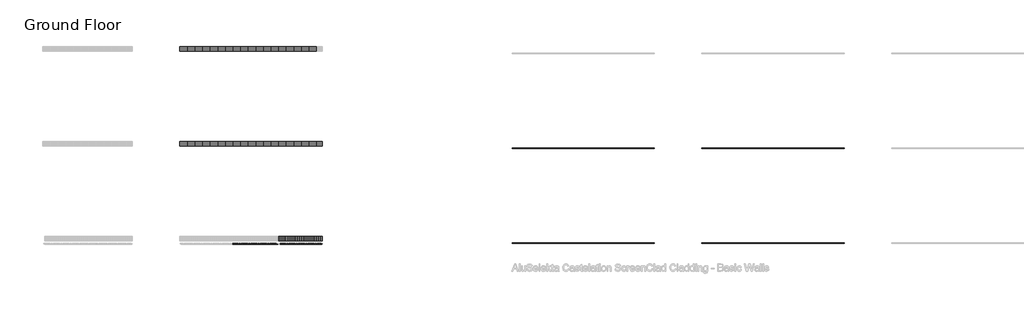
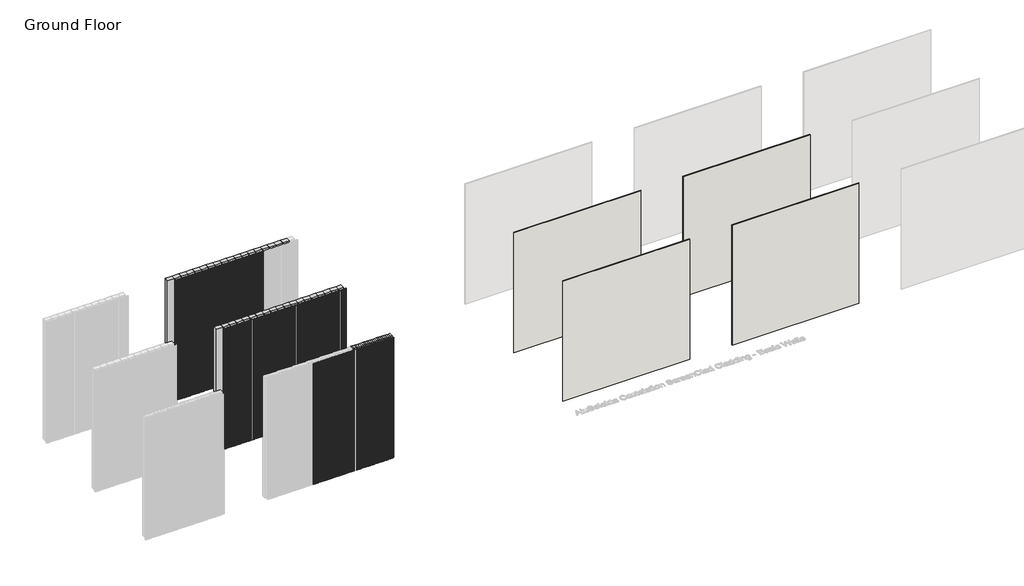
# One storey, part 35 of 350: 77 members, 60 plates, 4 walls.
"""IFC4 building model written with IfcOpenShell, lengths in millimetres."""

from ifc_helpers import new_model, si_unit, origin, origin_with_axes, place, context, project, spatial, polyline, outline, extrude, transform, mapped, element, save
from components import rectangular_mullion_4c3290df, rectangular_mullion_73ab8564, empty_system_panel_empty_086c6263, empty_system_panel_empty_a0fcacb3, empty_system_panel_empty_3b645525, empty_system_panel_empty_df7ddcff

model = new_model("IFC4")

# Units and contexts
model_context = context("Model", 3, world=origin())
ifc_project = project(units=[si_unit("LENGTHUNIT", "METRE", prefix="MILLI")], contexts=[model_context])

# Site, building, storey
site = spatial("IfcSite", under=ifc_project)
building = spatial("IfcBuilding", under=site)
storey = spatial("IfcBuildingStorey", under=building, Name="Ground Floor", Elevation=0.0)

# Members
placement = place(None, origin())
rectangular_mullion_shape = rectangular_mullion_4c3290df(model_context)
element("IfcMember", 1, ObjectType="Rectangular Mullion : Cladding_Aluminium_Modinex_AluSelekta_Castelation_ScreenClad_40_WhiteOak", at=placement, inside=storey, context=model_context, shape_type="MappedRepresentation", body=[
    mapped(rectangular_mullion_shape, transform((51156.4361642, 4968.2978302, 0.0), x_axis=(1.0, 0.0, 0.0), y_axis=(0.0, -1.0, 0.0), z_axis=(0.0, 0.0, -1.0))),
])
element("IfcMember", 2, ObjectType="Rectangular Mullion : Cladding_Aluminium_Modinex_AluSelekta_Castelation_ScreenClad_40_WhiteOak", at=placement, inside=storey, context=model_context, shape_type="MappedRepresentation", body=[
    mapped(rectangular_mullion_shape, transform((51196.4361642, 4968.2978302, 0.0), x_axis=(1.0, 0.0, 0.0), y_axis=(0.0, -1.0, 0.0), z_axis=(0.0, 0.0, -1.0))),
])
element("IfcMember", 3, ObjectType="Rectangular Mullion : Cladding_Aluminium_Modinex_AluSelekta_Castelation_ScreenClad_40_WhiteOak", at=placement, inside=storey, context=model_context, shape_type="MappedRepresentation", body=[
    mapped(rectangular_mullion_shape, transform((51236.4361642, 4968.2978302, 0.0), x_axis=(1.0, 0.0, 0.0), y_axis=(0.0, -1.0, 0.0), z_axis=(0.0, 0.0, -1.0))),
])
element("IfcMember", 4, ObjectType="Rectangular Mullion : Cladding_Aluminium_Modinex_AluSelekta_Castelation_ScreenClad_40_WhiteOak", at=placement, inside=storey, context=model_context, shape_type="MappedRepresentation", body=[
    mapped(rectangular_mullion_shape, transform((51276.4361642, 4968.2978302, 0.0), x_axis=(1.0, 0.0, 0.0), y_axis=(0.0, -1.0, 0.0), z_axis=(0.0, 0.0, -1.0))),
])
element("IfcMember", 5, ObjectType="Rectangular Mullion : Cladding_Aluminium_Modinex_AluSelekta_Castelation_ScreenClad_40_WhiteOak", at=placement, inside=storey, context=model_context, shape_type="MappedRepresentation", body=[
    mapped(rectangular_mullion_shape, transform((51316.4361642, 4968.2978302, 0.0), x_axis=(1.0, 0.0, 0.0), y_axis=(0.0, -1.0, 0.0), z_axis=(0.0, 0.0, -1.0))),
])
element("IfcMember", 6, ObjectType="Rectangular Mullion : Cladding_Aluminium_Modinex_AluSelekta_Castelation_ScreenClad_40_WhiteOak", at=placement, inside=storey, context=model_context, shape_type="MappedRepresentation", body=[
    mapped(rectangular_mullion_shape, transform((51356.4361642, 4968.2978302, 0.0), x_axis=(1.0, 0.0, 0.0), y_axis=(0.0, -1.0, 0.0), z_axis=(0.0, 0.0, -1.0))),
])
element("IfcMember", 7, ObjectType="Rectangular Mullion : Cladding_Aluminium_Modinex_AluSelekta_Castelation_ScreenClad_40_WhiteOak", at=placement, inside=storey, context=model_context, shape_type="MappedRepresentation", body=[
    mapped(rectangular_mullion_shape, transform((51396.4361642, 4968.2978302, 0.0), x_axis=(1.0, 0.0, 0.0), y_axis=(0.0, -1.0, 0.0), z_axis=(0.0, 0.0, -1.0))),
])
element("IfcMember", 8, ObjectType="Rectangular Mullion : Cladding_Aluminium_Modinex_AluSelekta_Castelation_ScreenClad_40_WhiteOak", at=placement, inside=storey, context=model_context, shape_type="MappedRepresentation", body=[
    mapped(rectangular_mullion_shape, transform((51436.4361642, 4968.2978302, 0.0), x_axis=(1.0, 0.0, 0.0), y_axis=(0.0, -1.0, 0.0), z_axis=(0.0, 0.0, -1.0))),
])
element("IfcMember", 9, ObjectType="Rectangular Mullion : Cladding_Aluminium_Modinex_AluSelekta_Castelation_ScreenClad_40_WhiteOak", at=placement, inside=storey, context=model_context, shape_type="MappedRepresentation", body=[
    mapped(rectangular_mullion_shape, transform((51476.4361642, 4968.2978302, 0.0), x_axis=(1.0, 0.0, 0.0), y_axis=(0.0, -1.0, 0.0), z_axis=(0.0, 0.0, -1.0))),
])
element("IfcMember", 10, ObjectType="Rectangular Mullion : Cladding_Aluminium_Modinex_AluSelekta_Castelation_ScreenClad_40_WhiteOak", at=placement, inside=storey, context=model_context, shape_type="MappedRepresentation", body=[
    mapped(rectangular_mullion_shape, transform((51516.4361642, 4968.2978302, 0.0), x_axis=(1.0, 0.0, 0.0), y_axis=(0.0, -1.0, 0.0), z_axis=(0.0, 0.0, -1.0))),
])
element("IfcMember", 11, ObjectType="Rectangular Mullion : Cladding_Aluminium_Modinex_AluSelekta_Castelation_ScreenClad_40_WhiteOak", at=placement, inside=storey, context=model_context, shape_type="MappedRepresentation", body=[
    mapped(rectangular_mullion_shape, transform((51556.4361642, 4968.2978302, 0.0), x_axis=(1.0, 0.0, 0.0), y_axis=(0.0, -1.0, 0.0), z_axis=(0.0, 0.0, -1.0))),
])
element("IfcMember", 12, ObjectType="Rectangular Mullion : Cladding_Aluminium_Modinex_AluSelekta_Castelation_ScreenClad_40_WhiteOak", at=placement, inside=storey, context=model_context, shape_type="MappedRepresentation", body=[
    mapped(rectangular_mullion_shape, transform((51596.4361642, 4968.2978302, 0.0), x_axis=(1.0, 0.0, 0.0), y_axis=(0.0, -1.0, 0.0), z_axis=(0.0, 0.0, -1.0))),
])
element("IfcMember", 13, ObjectType="Rectangular Mullion : Cladding_Aluminium_Modinex_AluSelekta_Castelation_ScreenClad_40_WhiteOak", at=placement, inside=storey, context=model_context, shape_type="MappedRepresentation", body=[
    mapped(rectangular_mullion_shape, transform((51636.4361642, 4968.2978302, 0.0), x_axis=(1.0, 0.0, 0.0), y_axis=(0.0, -1.0, 0.0), z_axis=(0.0, 0.0, -1.0))),
])
element("IfcMember", 14, ObjectType="Rectangular Mullion : Cladding_Aluminium_Modinex_AluSelekta_Castelation_ScreenClad_40_WhiteOak", at=placement, inside=storey, context=model_context, shape_type="MappedRepresentation", body=[
    mapped(rectangular_mullion_shape, transform((51676.4361642, 4968.2978302, 0.0), x_axis=(1.0, 0.0, 0.0), y_axis=(0.0, -1.0, 0.0), z_axis=(0.0, 0.0, -1.0))),
])
element("IfcMember", 15, ObjectType="Rectangular Mullion : Cladding_Aluminium_Modinex_AluSelekta_Castelation_ScreenClad_40_WhiteOak", at=placement, inside=storey, context=model_context, shape_type="MappedRepresentation", body=[
    mapped(rectangular_mullion_shape, transform((51716.4361642, 4968.2978302, 0.0), x_axis=(1.0, 0.0, 0.0), y_axis=(0.0, -1.0, 0.0), z_axis=(0.0, 0.0, -1.0))),
])
element("IfcMember", 16, ObjectType="Rectangular Mullion : Cladding_Aluminium_Modinex_AluSelekta_Castelation_ScreenClad_40_WhiteOak", at=placement, inside=storey, context=model_context, shape_type="MappedRepresentation", body=[
    mapped(rectangular_mullion_shape, transform((51756.4361642, 4968.2978302, 0.0), x_axis=(1.0, 0.0, 0.0), y_axis=(0.0, -1.0, 0.0), z_axis=(0.0, 0.0, -1.0))),
])
element("IfcMember", 17, ObjectType="Rectangular Mullion : Cladding_Aluminium_Modinex_AluSelekta_Castelation_ScreenClad_40_WhiteOak", at=placement, inside=storey, context=model_context, shape_type="MappedRepresentation", body=[
    mapped(rectangular_mullion_shape, transform((51796.4361642, 4968.2978302, 0.0), x_axis=(1.0, 0.0, 0.0), y_axis=(0.0, -1.0, 0.0), z_axis=(0.0, 0.0, -1.0))),
])
element("IfcMember", 18, ObjectType="Rectangular Mullion : Cladding_Aluminium_Modinex_AluSelekta_Castelation_ScreenClad_40_WhiteOak", at=placement, inside=storey, context=model_context, shape_type="MappedRepresentation", body=[
    mapped(rectangular_mullion_shape, transform((51836.4361642, 4968.2978302, 0.0), x_axis=(1.0, 0.0, 0.0), y_axis=(0.0, -1.0, 0.0), z_axis=(0.0, 0.0, -1.0))),
])
element("IfcMember", 19, ObjectType="Rectangular Mullion : Cladding_Aluminium_Modinex_AluSelekta_Castelation_ScreenClad_40_WhiteOak", at=placement, inside=storey, context=model_context, shape_type="MappedRepresentation", body=[
    mapped(rectangular_mullion_shape, transform((51876.4361642, 4968.2978302, 0.0), x_axis=(1.0, 0.0, 0.0), y_axis=(0.0, -1.0, 0.0), z_axis=(0.0, 0.0, -1.0))),
])
element("IfcMember", 20, ObjectType="Rectangular Mullion : Cladding_Aluminium_Modinex_AluSelekta_Castelation_ScreenClad_40_WhiteOak", at=placement, inside=storey, context=model_context, shape_type="MappedRepresentation", body=[
    mapped(rectangular_mullion_shape, transform((51116.4361642, 4968.2978302, 0.0), x_axis=(1.0, 0.0, 0.0), y_axis=(0.0, -1.0, 0.0), z_axis=(0.0, 0.0, -1.0))),
])
element("IfcMember", 21, ObjectType="Rectangular Mullion : Cladding_Aluminium_Modinex_AluSelekta_Castelation_ScreenClad_40_WhiteOak", at=placement, inside=storey, context=model_context, shape_type="MappedRepresentation", body=[
    mapped(rectangular_mullion_shape, transform((51076.4361642, 4968.2978302, 0.0), x_axis=(1.0, 0.0, 0.0), y_axis=(0.0, -1.0, 0.0), z_axis=(0.0, 0.0, -1.0))),
])
element("IfcMember", 22, ObjectType="Rectangular Mullion : Cladding_Aluminium_Modinex_AluSelekta_Castelation_ScreenClad_40_WhiteOak", at=placement, inside=storey, context=model_context, shape_type="MappedRepresentation", body=[
    mapped(rectangular_mullion_shape, transform((51036.4361642, 4968.2978302, 0.0), x_axis=(1.0, 0.0, 0.0), y_axis=(0.0, -1.0, 0.0), z_axis=(0.0, 0.0, -1.0))),
])
element("IfcMember", 23, ObjectType="Rectangular Mullion : Cladding_Aluminium_Modinex_AluSelekta_Castelation_ScreenClad_40_WhiteOak", at=placement, inside=storey, context=model_context, shape_type="MappedRepresentation", body=[
    mapped(rectangular_mullion_shape, transform((50956.4361642, 4968.2978302, 0.0), x_axis=(1.0, 0.0, 0.0), y_axis=(0.0, -1.0, 0.0), z_axis=(0.0, 0.0, -1.0))),
])
element("IfcMember", 24, ObjectType="Rectangular Mullion : Cladding_Aluminium_Modinex_AluSelekta_Castelation_ScreenClad_40_WhiteOak", at=placement, inside=storey, context=model_context, shape_type="MappedRepresentation", body=[
    mapped(rectangular_mullion_shape, transform((50916.4361642, 4968.2978302, 0.0), x_axis=(1.0, 0.0, 0.0), y_axis=(0.0, -1.0, 0.0), z_axis=(0.0, 0.0, -1.0))),
])
element("IfcMember", 25, ObjectType="Rectangular Mullion : Cladding_Aluminium_Modinex_AluSelekta_Castelation_ScreenClad_40_WhiteOak", at=placement, inside=storey, context=model_context, shape_type="MappedRepresentation", body=[
    mapped(rectangular_mullion_shape, transform((50876.4361642, 4968.2978302, 0.0), x_axis=(1.0, 0.0, 0.0), y_axis=(0.0, -1.0, 0.0), z_axis=(0.0, 0.0, -1.0))),
])
element("IfcMember", 26, ObjectType="Rectangular Mullion : Cladding_Aluminium_Modinex_AluSelekta_Castelation_ScreenClad_40_WhiteOak", at=placement, inside=storey, context=model_context, shape_type="MappedRepresentation", body=[
    mapped(rectangular_mullion_shape, transform((50836.4361642, 4968.2978302, 0.0), x_axis=(1.0, 0.0, 0.0), y_axis=(0.0, -1.0, 0.0), z_axis=(0.0, 0.0, -1.0))),
])
element("IfcMember", 27, ObjectType="Rectangular Mullion : Cladding_Aluminium_Modinex_AluSelekta_Castelation_ScreenClad_40_WhiteOak", at=placement, inside=storey, context=model_context, shape_type="MappedRepresentation", body=[
    mapped(rectangular_mullion_shape, transform((50796.4361642, 4968.2978302, 0.0), x_axis=(1.0, 0.0, 0.0), y_axis=(0.0, -1.0, 0.0), z_axis=(0.0, 0.0, -1.0))),
])
element("IfcMember", 28, ObjectType="Rectangular Mullion : Cladding_Aluminium_Modinex_AluSelekta_Castelation_ScreenClad_40_WhiteOak", at=placement, inside=storey, context=model_context, shape_type="MappedRepresentation", body=[
    mapped(rectangular_mullion_shape, transform((50756.4361642, 4968.2978302, 0.0), x_axis=(1.0, 0.0, 0.0), y_axis=(0.0, -1.0, 0.0), z_axis=(0.0, 0.0, -1.0))),
])
element("IfcMember", 29, ObjectType="Rectangular Mullion : Cladding_Aluminium_Modinex_AluSelekta_Castelation_ScreenClad_40_WhiteOak", at=placement, inside=storey, context=model_context, shape_type="MappedRepresentation", body=[
    mapped(rectangular_mullion_shape, transform((50716.4361642, 4968.2978302, 0.0), x_axis=(1.0, 0.0, 0.0), y_axis=(0.0, -1.0, 0.0), z_axis=(0.0, 0.0, -1.0))),
])
element("IfcMember", 30, ObjectType="Rectangular Mullion : Cladding_Aluminium_Modinex_AluSelekta_Castelation_ScreenClad_40_WhiteOak", at=placement, inside=storey, context=model_context, shape_type="MappedRepresentation", body=[
    mapped(rectangular_mullion_shape, transform((50676.4361642, 4968.2978302, 0.0), x_axis=(1.0, 0.0, 0.0), y_axis=(0.0, -1.0, 0.0), z_axis=(0.0, 0.0, -1.0))),
])
element("IfcMember", 31, ObjectType="Rectangular Mullion : Cladding_Aluminium_Modinex_AluSelekta_Castelation_ScreenClad_40_WhiteOak", at=placement, inside=storey, context=model_context, shape_type="MappedRepresentation", body=[
    mapped(rectangular_mullion_shape, transform((50636.4361642, 4968.2978302, 0.0), x_axis=(1.0, 0.0, 0.0), y_axis=(0.0, -1.0, 0.0), z_axis=(0.0, 0.0, -1.0))),
])
element("IfcMember", 32, ObjectType="Rectangular Mullion : Cladding_Aluminium_Modinex_AluSelekta_Castelation_ScreenClad_40_WhiteOak", at=placement, inside=storey, context=model_context, shape_type="MappedRepresentation", body=[
    mapped(rectangular_mullion_shape, transform((50596.4361642, 4968.2978302, 0.0), x_axis=(1.0, 0.0, 0.0), y_axis=(0.0, -1.0, 0.0), z_axis=(0.0, 0.0, -1.0))),
])
element("IfcMember", 33, ObjectType="Rectangular Mullion : Cladding_Aluminium_Modinex_AluSelekta_Castelation_ScreenClad_40_WhiteOak", at=placement, inside=storey, context=model_context, shape_type="MappedRepresentation", body=[
    mapped(rectangular_mullion_shape, transform((50556.4361642, 4968.2978302, 0.0), x_axis=(1.0, 0.0, 0.0), y_axis=(0.0, -1.0, 0.0), z_axis=(0.0, 0.0, -1.0))),
])
element("IfcMember", 34, ObjectType="Rectangular Mullion : Cladding_Aluminium_Modinex_AluSelekta_Castelation_ScreenClad_40_WhiteOak", at=placement, inside=storey, context=model_context, shape_type="MappedRepresentation", body=[
    mapped(rectangular_mullion_shape, transform((50516.4361642, 4968.2978302, 0.0), x_axis=(1.0, 0.0, 0.0), y_axis=(0.0, -1.0, 0.0), z_axis=(0.0, 0.0, -1.0))),
])
element("IfcMember", 35, ObjectType="Rectangular Mullion : Cladding_Aluminium_Modinex_AluSelekta_Castelation_ScreenClad_40_WhiteOak", at=placement, inside=storey, context=model_context, shape_type="MappedRepresentation", body=[
    mapped(rectangular_mullion_shape, transform((50476.4361642, 4968.2978302, 0.0), x_axis=(1.0, 0.0, 0.0), y_axis=(0.0, -1.0, 0.0), z_axis=(0.0, 0.0, -1.0))),
])
element("IfcMember", 36, ObjectType="Rectangular Mullion : Cladding_Aluminium_Modinex_AluSelekta_Castelation_ScreenClad_40_WhiteOak", at=placement, inside=storey, context=model_context, shape_type="MappedRepresentation", body=[
    mapped(rectangular_mullion_shape, transform((50436.4361642, 4968.2978302, 0.0), x_axis=(1.0, 0.0, 0.0), y_axis=(0.0, -1.0, 0.0), z_axis=(0.0, 0.0, -1.0))),
])
element("IfcMember", 37, ObjectType="Rectangular Mullion : Cladding_Aluminium_Modinex_AluSelekta_Castelation_ScreenClad_40_WhiteOak", at=placement, inside=storey, context=model_context, shape_type="MappedRepresentation", body=[
    mapped(rectangular_mullion_shape, transform((50396.4361642, 4968.2978302, 0.0), x_axis=(1.0, 0.0, 0.0), y_axis=(0.0, -1.0, 0.0), z_axis=(0.0, 0.0, -1.0))),
])
element("IfcMember", 38, ObjectType="Rectangular Mullion : Cladding_Aluminium_Modinex_AluSelekta_Castelation_ScreenClad_40_WhiteOak", at=placement, inside=storey, context=model_context, shape_type="MappedRepresentation", body=[
    mapped(rectangular_mullion_shape, transform((50356.4361642, 4968.2978302, 0.0), x_axis=(1.0, 0.0, 0.0), y_axis=(0.0, -1.0, 0.0), z_axis=(0.0, 0.0, -1.0))),
])
element("IfcMember", 39, ObjectType="Rectangular Mullion : Cladding_Aluminium_Modinex_AluSelekta_Castelation_ScreenClad_40_WhiteOak", at=placement, inside=storey, context=model_context, shape_type="MappedRepresentation", body=[
    mapped(rectangular_mullion_shape, transform((50316.4361642, 4968.2978302, 0.0), x_axis=(1.0, 0.0, 0.0), y_axis=(0.0, -1.0, 0.0), z_axis=(0.0, 0.0, -1.0))),
])
element("IfcMember", 40, ObjectType="Rectangular Mullion : Cladding_Aluminium_Modinex_AluSelekta_Castelation_ScreenClad_40_WhiteOak", at=placement, inside=storey, context=model_context, shape_type="MappedRepresentation", body=[
    mapped(rectangular_mullion_shape, transform((50276.4361642, 4968.2978302, 0.0), x_axis=(1.0, 0.0, 0.0), y_axis=(0.0, -1.0, 0.0), z_axis=(0.0, 0.0, -1.0))),
])
element("IfcMember", 41, ObjectType="Rectangular Mullion : Cladding_Aluminium_Modinex_AluSelekta_Castelation_ScreenClad_40_WhiteOak", at=placement, inside=storey, context=model_context, shape_type="MappedRepresentation", body=[
    mapped(rectangular_mullion_shape, transform((50236.4361642, 4968.2978302, 0.0), x_axis=(1.0, 0.0, 0.0), y_axis=(0.0, -1.0, 0.0), z_axis=(0.0, 0.0, -1.0))),
])
element("IfcMember", 42, ObjectType="Rectangular Mullion : Cladding_Aluminium_Modinex_AluSelekta_Castelation_ScreenClad_40_WhiteOak", at=placement, inside=storey, context=model_context, shape_type="MappedRepresentation", body=[
    mapped(rectangular_mullion_shape, transform((50196.4361642, 4968.2978302, 0.0), x_axis=(1.0, 0.0, 0.0), y_axis=(0.0, -1.0, 0.0), z_axis=(0.0, 0.0, -1.0))),
])
element("IfcMember", 43, ObjectType="Rectangular Mullion : Cladding_Aluminium_Modinex_AluSelekta_Castelation_ScreenClad_40_WhiteOak", at=placement, inside=storey, context=model_context, shape_type="MappedRepresentation", body=[
    mapped(rectangular_mullion_shape, transform((50156.4361642, 4968.2978302, 0.0), x_axis=(1.0, 0.0, 0.0), y_axis=(0.0, -1.0, 0.0), z_axis=(0.0, 0.0, -1.0))),
])
element("IfcMember", 44, ObjectType="Rectangular Mullion : Cladding_Aluminium_Modinex_AluSelekta_Castelation_ScreenClad_40_WhiteOak", at=placement, inside=storey, context=model_context, shape_type="MappedRepresentation", body=[
    mapped(rectangular_mullion_shape, transform((50116.4361642, 4968.2978302, 0.0), x_axis=(1.0, 0.0, 0.0), y_axis=(0.0, -1.0, 0.0), z_axis=(0.0, 0.0, -1.0))),
])
element("IfcMember", 45, ObjectType="Rectangular Mullion : Cladding_Aluminium_Modinex_AluSelekta_Castelation_ScreenClad_40_WhiteOak", at=placement, inside=storey, context=model_context, shape_type="MappedRepresentation", body=[
    mapped(rectangular_mullion_shape, transform((50076.4361642, 4968.2978302, 0.0), x_axis=(1.0, 0.0, 0.0), y_axis=(0.0, -1.0, 0.0), z_axis=(0.0, 0.0, -1.0))),
])
element("IfcMember", 46, ObjectType="Rectangular Mullion : Cladding_Aluminium_Modinex_AluSelekta_Castelation_ScreenClad_40_WhiteOak", at=placement, inside=storey, context=model_context, shape_type="MappedRepresentation", body=[
    mapped(rectangular_mullion_shape, transform((50036.4361642, 4968.2978302, 0.0), x_axis=(1.0, 0.0, 0.0), y_axis=(0.0, -1.0, 0.0), z_axis=(0.0, 0.0, -1.0))),
])
rectangular_mullion_2_shape = rectangular_mullion_73ab8564(model_context)
element("IfcMember", 47, ObjectType="Rectangular Mullion : Cladding_Aluminium_Modinex_AluSelekta_Castelation_ScreenClad_160_WhiteOak", at=placement, inside=storey, context=model_context, shape_type="MappedRepresentation", body=[
    mapped(rectangular_mullion_2_shape, transform((49076.4361642, 6968.2978302, 0.0), x_axis=(1.0, 0.0, 0.0), y_axis=(0.0, -1.0, 0.0), z_axis=(0.0, 0.0, -1.0))),
])
element("IfcMember", 48, ObjectType="Rectangular Mullion : Cladding_Aluminium_Modinex_AluSelekta_Castelation_ScreenClad_160_WhiteOak", at=placement, inside=storey, context=model_context, shape_type="MappedRepresentation", body=[
    mapped(rectangular_mullion_2_shape, transform((49236.4361642, 6968.2978302, 0.0), x_axis=(1.0, 0.0, 0.0), y_axis=(0.0, -1.0, 0.0), z_axis=(0.0, 0.0, -1.0))),
])
element("IfcMember", 49, ObjectType="Rectangular Mullion : Cladding_Aluminium_Modinex_AluSelekta_Castelation_ScreenClad_160_WhiteOak", at=placement, inside=storey, context=model_context, shape_type="MappedRepresentation", body=[
    mapped(rectangular_mullion_2_shape, transform((49396.4361642, 6968.2978302, 0.0), x_axis=(1.0, 0.0, 0.0), y_axis=(0.0, -1.0, 0.0), z_axis=(0.0, 0.0, -1.0))),
])
element("IfcMember", 50, ObjectType="Rectangular Mullion : Cladding_Aluminium_Modinex_AluSelekta_Castelation_ScreenClad_160_WhiteOak", at=placement, inside=storey, context=model_context, shape_type="MappedRepresentation", body=[
    mapped(rectangular_mullion_2_shape, transform((49556.4361642, 6968.2978302, 0.0), x_axis=(1.0, 0.0, 0.0), y_axis=(0.0, -1.0, 0.0), z_axis=(0.0, 0.0, -1.0))),
])
element("IfcMember", 51, ObjectType="Rectangular Mullion : Cladding_Aluminium_Modinex_AluSelekta_Castelation_ScreenClad_160_WhiteOak", at=placement, inside=storey, context=model_context, shape_type="MappedRepresentation", body=[
    mapped(rectangular_mullion_2_shape, transform((49716.4361642, 6968.2978302, 0.0), x_axis=(1.0, 0.0, 0.0), y_axis=(0.0, -1.0, 0.0), z_axis=(0.0, 0.0, -1.0))),
])
element("IfcMember", 52, ObjectType="Rectangular Mullion : Cladding_Aluminium_Modinex_AluSelekta_Castelation_ScreenClad_160_WhiteOak", at=placement, inside=storey, context=model_context, shape_type="MappedRepresentation", body=[
    mapped(rectangular_mullion_2_shape, transform((49876.4361642, 6968.2978302, 0.0), x_axis=(1.0, 0.0, 0.0), y_axis=(0.0, -1.0, 0.0), z_axis=(0.0, 0.0, -1.0))),
])
element("IfcMember", 53, ObjectType="Rectangular Mullion : Cladding_Aluminium_Modinex_AluSelekta_Castelation_ScreenClad_160_WhiteOak", at=placement, inside=storey, context=model_context, shape_type="MappedRepresentation", body=[
    mapped(rectangular_mullion_2_shape, transform((50036.4361642, 6968.2978302, 0.0), x_axis=(1.0, 0.0, 0.0), y_axis=(0.0, -1.0, 0.0), z_axis=(0.0, 0.0, -1.0))),
])
element("IfcMember", 54, ObjectType="Rectangular Mullion : Cladding_Aluminium_Modinex_AluSelekta_Castelation_ScreenClad_160_WhiteOak", at=placement, inside=storey, context=model_context, shape_type="MappedRepresentation", body=[
    mapped(rectangular_mullion_2_shape, transform((50196.4361642, 6968.2978302, 0.0), x_axis=(1.0, 0.0, 0.0), y_axis=(0.0, -1.0, 0.0), z_axis=(0.0, 0.0, -1.0))),
])
element("IfcMember", 55, ObjectType="Rectangular Mullion : Cladding_Aluminium_Modinex_AluSelekta_Castelation_ScreenClad_160_WhiteOak", at=placement, inside=storey, context=model_context, shape_type="MappedRepresentation", body=[
    mapped(rectangular_mullion_2_shape, transform((50356.4361642, 6968.2978302, 0.0), x_axis=(1.0, 0.0, 0.0), y_axis=(0.0, -1.0, 0.0), z_axis=(0.0, 0.0, -1.0))),
])
element("IfcMember", 56, ObjectType="Rectangular Mullion : Cladding_Aluminium_Modinex_AluSelekta_Castelation_ScreenClad_160_WhiteOak", at=placement, inside=storey, context=model_context, shape_type="MappedRepresentation", body=[
    mapped(rectangular_mullion_2_shape, transform((50516.4361642, 6968.2978302, 0.0), x_axis=(1.0, 0.0, 0.0), y_axis=(0.0, -1.0, 0.0), z_axis=(0.0, 0.0, -1.0))),
])
element("IfcMember", 57, ObjectType="Rectangular Mullion : Cladding_Aluminium_Modinex_AluSelekta_Castelation_ScreenClad_160_WhiteOak", at=placement, inside=storey, context=model_context, shape_type="MappedRepresentation", body=[
    mapped(rectangular_mullion_2_shape, transform((50676.4361642, 6968.2978302, 0.0), x_axis=(1.0, 0.0, 0.0), y_axis=(0.0, -1.0, 0.0), z_axis=(0.0, 0.0, -1.0))),
])
element("IfcMember", 58, ObjectType="Rectangular Mullion : Cladding_Aluminium_Modinex_AluSelekta_Castelation_ScreenClad_160_WhiteOak", at=placement, inside=storey, context=model_context, shape_type="MappedRepresentation", body=[
    mapped(rectangular_mullion_2_shape, transform((50836.4361642, 6968.2978302, 0.0), x_axis=(1.0, 0.0, 0.0), y_axis=(0.0, -1.0, 0.0), z_axis=(0.0, 0.0, -1.0))),
])
element("IfcMember", 59, ObjectType="Rectangular Mullion : Cladding_Aluminium_Modinex_AluSelekta_Castelation_ScreenClad_160_WhiteOak", at=placement, inside=storey, context=model_context, shape_type="MappedRepresentation", body=[
    mapped(rectangular_mullion_2_shape, transform((50996.4361642, 6968.2978302, 0.0), x_axis=(1.0, 0.0, 0.0), y_axis=(0.0, -1.0, 0.0), z_axis=(0.0, 0.0, -1.0))),
])
element("IfcMember", 60, ObjectType="Rectangular Mullion : Cladding_Aluminium_Modinex_AluSelekta_Castelation_ScreenClad_160_WhiteOak", at=placement, inside=storey, context=model_context, shape_type="MappedRepresentation", body=[
    mapped(rectangular_mullion_2_shape, transform((51156.4361642, 6968.2978302, 0.0), x_axis=(1.0, 0.0, 0.0), y_axis=(0.0, -1.0, 0.0), z_axis=(0.0, 0.0, -1.0))),
])
element("IfcMember", 61, ObjectType="Rectangular Mullion : Cladding_Aluminium_Modinex_AluSelekta_Castelation_ScreenClad_160_WhiteOak", at=placement, inside=storey, context=model_context, shape_type="MappedRepresentation", body=[
    mapped(rectangular_mullion_2_shape, transform((51316.4361642, 6968.2978302, 0.0), x_axis=(1.0, 0.0, 0.0), y_axis=(0.0, -1.0, 0.0), z_axis=(0.0, 0.0, -1.0))),
])
element("IfcMember", 62, ObjectType="Rectangular Mullion : Cladding_Aluminium_Modinex_AluSelekta_Castelation_ScreenClad_160_WhiteOak", at=placement, inside=storey, context=model_context, shape_type="MappedRepresentation", body=[
    mapped(rectangular_mullion_2_shape, transform((51476.4361642, 6968.2978302, 0.0), x_axis=(1.0, 0.0, 0.0), y_axis=(0.0, -1.0, 0.0), z_axis=(0.0, 0.0, -1.0))),
])
element("IfcMember", 63, ObjectType="Rectangular Mullion : Cladding_Aluminium_Modinex_AluSelekta_Castelation_ScreenClad_160_WhiteOak", at=placement, inside=storey, context=model_context, shape_type="MappedRepresentation", body=[
    mapped(rectangular_mullion_2_shape, transform((51636.4361642, 6968.2978302, 0.0), x_axis=(1.0, 0.0, 0.0), y_axis=(0.0, -1.0, 0.0), z_axis=(0.0, 0.0, -1.0))),
])
element("IfcMember", 64, ObjectType="Rectangular Mullion : Cladding_Aluminium_Modinex_AluSelekta_Castelation_ScreenClad_160_WhiteOak", at=placement, inside=storey, context=model_context, shape_type="MappedRepresentation", body=[
    mapped(rectangular_mullion_2_shape, transform((51796.4361642, 6968.2978302, 0.0), x_axis=(1.0, 0.0, 0.0), y_axis=(0.0, -1.0, 0.0), z_axis=(0.0, 0.0, -1.0))),
])
element("IfcMember", 65, ObjectType="Rectangular Mullion : Cladding_Aluminium_Modinex_AluSelekta_Castelation_ScreenClad_160Ultra_WhiteOak", at=placement, inside=storey, context=model_context, shape_type="MappedRepresentation", body=[
    mapped(rectangular_mullion_2_shape, transform((49076.4361642, 8968.2978302, 0.0), x_axis=(1.0, 0.0, 0.0), y_axis=(0.0, -1.0, 0.0), z_axis=(0.0, 0.0, -1.0))),
])
element("IfcMember", 66, ObjectType="Rectangular Mullion : Cladding_Aluminium_Modinex_AluSelekta_Castelation_ScreenClad_160Ultra_WhiteOak", at=placement, inside=storey, context=model_context, shape_type="MappedRepresentation", body=[
    mapped(rectangular_mullion_2_shape, transform((49236.4361642, 8968.2978302, 0.0), x_axis=(1.0, 0.0, 0.0), y_axis=(0.0, -1.0, 0.0), z_axis=(0.0, 0.0, -1.0))),
])
element("IfcMember", 67, ObjectType="Rectangular Mullion : Cladding_Aluminium_Modinex_AluSelekta_Castelation_ScreenClad_160Ultra_WhiteOak", at=placement, inside=storey, context=model_context, shape_type="MappedRepresentation", body=[
    mapped(rectangular_mullion_2_shape, transform((49396.4361642, 8968.2978302, 0.0), x_axis=(1.0, 0.0, 0.0), y_axis=(0.0, -1.0, 0.0), z_axis=(0.0, 0.0, -1.0))),
])
element("IfcMember", 68, ObjectType="Rectangular Mullion : Cladding_Aluminium_Modinex_AluSelekta_Castelation_ScreenClad_160Ultra_WhiteOak", at=placement, inside=storey, context=model_context, shape_type="MappedRepresentation", body=[
    mapped(rectangular_mullion_2_shape, transform((49556.4361642, 8968.2978302, 0.0), x_axis=(1.0, 0.0, 0.0), y_axis=(0.0, -1.0, 0.0), z_axis=(0.0, 0.0, -1.0))),
])
element("IfcMember", 69, ObjectType="Rectangular Mullion : Cladding_Aluminium_Modinex_AluSelekta_Castelation_ScreenClad_160Ultra_WhiteOak", at=placement, inside=storey, context=model_context, shape_type="MappedRepresentation", body=[
    mapped(rectangular_mullion_2_shape, transform((49716.4361642, 8968.2978302, 0.0), x_axis=(1.0, 0.0, 0.0), y_axis=(0.0, -1.0, 0.0), z_axis=(0.0, 0.0, -1.0))),
])
element("IfcMember", 70, ObjectType="Rectangular Mullion : Cladding_Aluminium_Modinex_AluSelekta_Castelation_ScreenClad_160Ultra_WhiteOak", at=placement, inside=storey, context=model_context, shape_type="MappedRepresentation", body=[
    mapped(rectangular_mullion_2_shape, transform((49876.4361642, 8968.2978302, 0.0), x_axis=(1.0, 0.0, 0.0), y_axis=(0.0, -1.0, 0.0), z_axis=(0.0, 0.0, -1.0))),
])
element("IfcMember", 71, ObjectType="Rectangular Mullion : Cladding_Aluminium_Modinex_AluSelekta_Castelation_ScreenClad_160Ultra_WhiteOak", at=placement, inside=storey, context=model_context, shape_type="MappedRepresentation", body=[
    mapped(rectangular_mullion_2_shape, transform((50036.4361642, 8968.2978302, 0.0), x_axis=(1.0, 0.0, 0.0), y_axis=(0.0, -1.0, 0.0), z_axis=(0.0, 0.0, -1.0))),
])
element("IfcMember", 72, ObjectType="Rectangular Mullion : Cladding_Aluminium_Modinex_AluSelekta_Castelation_ScreenClad_160Ultra_WhiteOak", at=placement, inside=storey, context=model_context, shape_type="MappedRepresentation", body=[
    mapped(rectangular_mullion_2_shape, transform((50196.4361642, 8968.2978302, 0.0), x_axis=(1.0, 0.0, 0.0), y_axis=(0.0, -1.0, 0.0), z_axis=(0.0, 0.0, -1.0))),
])
element("IfcMember", 73, ObjectType="Rectangular Mullion : Cladding_Aluminium_Modinex_AluSelekta_Castelation_ScreenClad_160Ultra_WhiteOak", at=placement, inside=storey, context=model_context, shape_type="MappedRepresentation", body=[
    mapped(rectangular_mullion_2_shape, transform((50356.4361642, 8968.2978302, 0.0), x_axis=(1.0, 0.0, 0.0), y_axis=(0.0, -1.0, 0.0), z_axis=(0.0, 0.0, -1.0))),
])
element("IfcMember", 74, ObjectType="Rectangular Mullion : Cladding_Aluminium_Modinex_AluSelekta_Castelation_ScreenClad_160Ultra_WhiteOak", at=placement, inside=storey, context=model_context, shape_type="MappedRepresentation", body=[
    mapped(rectangular_mullion_2_shape, transform((50516.4361642, 8968.2978302, 0.0), x_axis=(1.0, 0.0, 0.0), y_axis=(0.0, -1.0, 0.0), z_axis=(0.0, 0.0, -1.0))),
])
element("IfcMember", 75, ObjectType="Rectangular Mullion : Cladding_Aluminium_Modinex_AluSelekta_Castelation_ScreenClad_160Ultra_WhiteOak", at=placement, inside=storey, context=model_context, shape_type="MappedRepresentation", body=[
    mapped(rectangular_mullion_2_shape, transform((50676.4361642, 8968.2978302, 0.0), x_axis=(1.0, 0.0, 0.0), y_axis=(0.0, -1.0, 0.0), z_axis=(0.0, 0.0, -1.0))),
])
element("IfcMember", 76, ObjectType="Rectangular Mullion : Cladding_Aluminium_Modinex_AluSelekta_Castelation_ScreenClad_160Ultra_WhiteOak", at=placement, inside=storey, context=model_context, shape_type="MappedRepresentation", body=[
    mapped(rectangular_mullion_2_shape, transform((50836.4361642, 8968.2978302, 0.0), x_axis=(1.0, 0.0, 0.0), y_axis=(0.0, -1.0, 0.0), z_axis=(0.0, 0.0, -1.0))),
])
element("IfcMember", 77, ObjectType="Rectangular Mullion : Cladding_Aluminium_Modinex_AluSelekta_Castelation_ScreenClad_160Ultra_WhiteOak", at=placement, inside=storey, context=model_context, shape_type="MappedRepresentation", body=[
    mapped(rectangular_mullion_2_shape, transform((50996.4361642, 8968.2978302, 0.0), x_axis=(1.0, 0.0, 0.0), y_axis=(0.0, -1.0, 0.0), z_axis=(0.0, 0.0, -1.0))),
])

# Plates
empty_system_panel_empty_shape = empty_system_panel_empty_086c6263(model_context)
element("IfcPlate", 78, ObjectType="Empty System Panel : Empty", at=placement, inside=storey, context=model_context, shape_type="MappedRepresentation", body=[
    mapped(empty_system_panel_empty_shape, transform((51176.4361642, 4968.2978302, 0.0), x_axis=(1.0, 0.0, 0.0), y_axis=(0.0, 1.0, 0.0), z_axis=(0.0, 0.0, 1.0))),
])
element("IfcPlate", 79, ObjectType="Empty System Panel : Empty", at=placement, inside=storey, context=model_context, shape_type="MappedRepresentation", body=[
    mapped(empty_system_panel_empty_shape, transform((51216.4361642, 4968.2978302, 0.0), x_axis=(1.0, 0.0, 0.0), y_axis=(0.0, 1.0, 0.0), z_axis=(0.0, 0.0, 1.0))),
])
element("IfcPlate", 80, ObjectType="Empty System Panel : Empty", at=placement, inside=storey, context=model_context, shape_type="MappedRepresentation", body=[
    mapped(empty_system_panel_empty_shape, transform((51256.4361642, 4968.2978302, 0.0), x_axis=(1.0, 0.0, 0.0), y_axis=(0.0, 1.0, 0.0), z_axis=(0.0, 0.0, 1.0))),
])
element("IfcPlate", 81, ObjectType="Empty System Panel : Empty", at=placement, inside=storey, context=model_context, shape_type="MappedRepresentation", body=[
    mapped(empty_system_panel_empty_shape, transform((51296.4361642, 4968.2978302, 0.0), x_axis=(1.0, 0.0, 0.0), y_axis=(0.0, 1.0, 0.0), z_axis=(0.0, 0.0, 1.0))),
])
element("IfcPlate", 82, ObjectType="Empty System Panel : Empty", at=placement, inside=storey, context=model_context, shape_type="MappedRepresentation", body=[
    mapped(empty_system_panel_empty_shape, transform((51336.4361642, 4968.2978302, 0.0), x_axis=(1.0, 0.0, 0.0), y_axis=(0.0, 1.0, 0.0), z_axis=(0.0, 0.0, 1.0))),
])
element("IfcPlate", 83, ObjectType="Empty System Panel : Empty", at=placement, inside=storey, context=model_context, shape_type="MappedRepresentation", body=[
    mapped(empty_system_panel_empty_shape, transform((51376.4361642, 4968.2978302, 0.0), x_axis=(1.0, 0.0, 0.0), y_axis=(0.0, 1.0, 0.0), z_axis=(0.0, 0.0, 1.0))),
])
element("IfcPlate", 84, ObjectType="Empty System Panel : Empty", at=placement, inside=storey, context=model_context, shape_type="MappedRepresentation", body=[
    mapped(empty_system_panel_empty_shape, transform((51416.4361642, 4968.2978302, 0.0), x_axis=(1.0, 0.0, 0.0), y_axis=(0.0, 1.0, 0.0), z_axis=(0.0, 0.0, 1.0))),
])
element("IfcPlate", 85, ObjectType="Empty System Panel : Empty", at=placement, inside=storey, context=model_context, shape_type="MappedRepresentation", body=[
    mapped(empty_system_panel_empty_shape, transform((51456.4361642, 4968.2978302, 0.0), x_axis=(1.0, 0.0, 0.0), y_axis=(0.0, 1.0, 0.0), z_axis=(0.0, 0.0, 1.0))),
])
element("IfcPlate", 86, ObjectType="Empty System Panel : Empty", at=placement, inside=storey, context=model_context, shape_type="MappedRepresentation", body=[
    mapped(empty_system_panel_empty_shape, transform((51496.4361642, 4968.2978302, 0.0), x_axis=(1.0, 0.0, 0.0), y_axis=(0.0, 1.0, 0.0), z_axis=(0.0, 0.0, 1.0))),
])
element("IfcPlate", 87, ObjectType="Empty System Panel : Empty", at=placement, inside=storey, context=model_context, shape_type="MappedRepresentation", body=[
    mapped(empty_system_panel_empty_shape, transform((51536.4361642, 4968.2978302, 0.0), x_axis=(1.0, 0.0, 0.0), y_axis=(0.0, 1.0, 0.0), z_axis=(0.0, 0.0, 1.0))),
])
element("IfcPlate", 88, ObjectType="Empty System Panel : Empty", at=placement, inside=storey, context=model_context, shape_type="MappedRepresentation", body=[
    mapped(empty_system_panel_empty_shape, transform((51576.4361642, 4968.2978302, 0.0), x_axis=(1.0, 0.0, 0.0), y_axis=(0.0, 1.0, 0.0), z_axis=(0.0, 0.0, 1.0))),
])
element("IfcPlate", 89, ObjectType="Empty System Panel : Empty", at=placement, inside=storey, context=model_context, shape_type="MappedRepresentation", body=[
    mapped(empty_system_panel_empty_shape, transform((51616.4361642, 4968.2978302, 0.0), x_axis=(1.0, 0.0, 0.0), y_axis=(0.0, 1.0, 0.0), z_axis=(0.0, 0.0, 1.0))),
])
element("IfcPlate", 90, ObjectType="Empty System Panel : Empty", at=placement, inside=storey, context=model_context, shape_type="MappedRepresentation", body=[
    mapped(empty_system_panel_empty_shape, transform((51656.4361642, 4968.2978302, 0.0), x_axis=(1.0, 0.0, 0.0), y_axis=(0.0, 1.0, 0.0), z_axis=(0.0, 0.0, 1.0))),
])
element("IfcPlate", 91, ObjectType="Empty System Panel : Empty", at=placement, inside=storey, context=model_context, shape_type="MappedRepresentation", body=[
    mapped(empty_system_panel_empty_shape, transform((51696.4361642, 4968.2978302, 0.0), x_axis=(1.0, 0.0, 0.0), y_axis=(0.0, 1.0, 0.0), z_axis=(0.0, 0.0, 1.0))),
])
element("IfcPlate", 92, ObjectType="Empty System Panel : Empty", at=placement, inside=storey, context=model_context, shape_type="MappedRepresentation", body=[
    mapped(empty_system_panel_empty_shape, transform((51736.4361642, 4968.2978302, 0.0), x_axis=(1.0, 0.0, 0.0), y_axis=(0.0, 1.0, 0.0), z_axis=(0.0, 0.0, 1.0))),
])
element("IfcPlate", 93, ObjectType="Empty System Panel : Empty", at=placement, inside=storey, context=model_context, shape_type="MappedRepresentation", body=[
    mapped(empty_system_panel_empty_shape, transform((51776.4361642, 4968.2978302, 0.0), x_axis=(1.0, 0.0, 0.0), y_axis=(0.0, 1.0, 0.0), z_axis=(0.0, 0.0, 1.0))),
])
element("IfcPlate", 94, ObjectType="Empty System Panel : Empty", at=placement, inside=storey, context=model_context, shape_type="MappedRepresentation", body=[
    mapped(empty_system_panel_empty_shape, transform((51816.4361642, 4968.2978302, 0.0), x_axis=(1.0, 0.0, 0.0), y_axis=(0.0, 1.0, 0.0), z_axis=(0.0, 0.0, 1.0))),
])
element("IfcPlate", 95, ObjectType="Empty System Panel : Empty", at=placement, inside=storey, context=model_context, shape_type="MappedRepresentation", body=[
    mapped(empty_system_panel_empty_shape, transform((51856.4361642, 4968.2978302, 0.0), x_axis=(1.0, 0.0, 0.0), y_axis=(0.0, 1.0, 0.0), z_axis=(0.0, 0.0, 1.0))),
])
element("IfcPlate", 96, ObjectType="Empty System Panel : Empty", at=placement, inside=storey, context=model_context, shape_type="MappedRepresentation", body=[
    mapped(empty_system_panel_empty_shape, transform((51136.4361642, 4968.2978302, 0.0), x_axis=(1.0, 0.0, 0.0), y_axis=(0.0, 1.0, 0.0), z_axis=(0.0, 0.0, 1.0))),
])
element("IfcPlate", 97, ObjectType="Empty System Panel : Empty", at=placement, inside=storey, context=model_context, shape_type="MappedRepresentation", body=[
    mapped(empty_system_panel_empty_shape, transform((51096.4361642, 4968.2978302, 0.0), x_axis=(1.0, 0.0, 0.0), y_axis=(0.0, 1.0, 0.0), z_axis=(0.0, 0.0, 1.0))),
])
element("IfcPlate", 98, ObjectType="Empty System Panel : Empty", at=placement, inside=storey, context=model_context, shape_type="MappedRepresentation", body=[
    mapped(empty_system_panel_empty_shape, transform((51056.4361642, 4968.2978302, 0.0), x_axis=(1.0, 0.0, 0.0), y_axis=(0.0, 1.0, 0.0), z_axis=(0.0, 0.0, 1.0))),
])
element("IfcPlate", 99, ObjectType="Empty System Panel : Empty", at=placement, inside=storey, context=model_context, shape_type="MappedRepresentation", body=[
    mapped(empty_system_panel_empty_shape, transform((51016.4361642, 4968.2978302, 0.0), x_axis=(1.0, 0.0, 0.0), y_axis=(0.0, 1.0, 0.0), z_axis=(0.0, 0.0, 1.0))),
])
empty_system_panel_empty_2_shape = empty_system_panel_empty_a0fcacb3(model_context)
element("IfcPlate", 100, ObjectType="Empty System Panel : Empty", at=placement, inside=storey, context=model_context, shape_type="MappedRepresentation", body=[
    mapped(empty_system_panel_empty_2_shape, transform((51896.4361641, 4968.2978302, 0.0), x_axis=(1.0, 0.0, 0.0), y_axis=(0.0, 1.0, 0.0), z_axis=(0.0, 0.0, 1.0))),
])
empty_system_panel_empty_3_shape = empty_system_panel_empty_3b645525(model_context)
element("IfcPlate", 101, ObjectType="Empty System Panel : Empty", at=placement, inside=storey, context=model_context, shape_type="MappedRepresentation", body=[
    mapped(empty_system_panel_empty_3_shape, transform((48996.4361641, 6968.2978302, 0.0), x_axis=(1.0, 0.0, 0.0), y_axis=(0.0, 1.0, 0.0), z_axis=(0.0, 0.0, 1.0))),
])
element("IfcPlate", 102, ObjectType="Empty System Panel : Empty", at=placement, inside=storey, context=model_context, shape_type="MappedRepresentation", body=[
    mapped(empty_system_panel_empty_3_shape, transform((49156.4361642, 6968.2978302, 0.0), x_axis=(1.0, 0.0, 0.0), y_axis=(0.0, 1.0, 0.0), z_axis=(0.0, 0.0, 1.0))),
])
element("IfcPlate", 103, ObjectType="Empty System Panel : Empty", at=placement, inside=storey, context=model_context, shape_type="MappedRepresentation", body=[
    mapped(empty_system_panel_empty_3_shape, transform((49316.4361642, 6968.2978302, 0.0), x_axis=(1.0, 0.0, 0.0), y_axis=(0.0, 1.0, 0.0), z_axis=(0.0, 0.0, 1.0))),
])
element("IfcPlate", 104, ObjectType="Empty System Panel : Empty", at=placement, inside=storey, context=model_context, shape_type="MappedRepresentation", body=[
    mapped(empty_system_panel_empty_3_shape, transform((49476.4361642, 6968.2978302, 0.0), x_axis=(1.0, 0.0, 0.0), y_axis=(0.0, 1.0, 0.0), z_axis=(0.0, 0.0, 1.0))),
])
element("IfcPlate", 105, ObjectType="Empty System Panel : Empty", at=placement, inside=storey, context=model_context, shape_type="MappedRepresentation", body=[
    mapped(empty_system_panel_empty_3_shape, transform((49636.4361642, 6968.2978302, 0.0), x_axis=(1.0, 0.0, 0.0), y_axis=(0.0, 1.0, 0.0), z_axis=(0.0, 0.0, 1.0))),
])
element("IfcPlate", 106, ObjectType="Empty System Panel : Empty", at=placement, inside=storey, context=model_context, shape_type="MappedRepresentation", body=[
    mapped(empty_system_panel_empty_3_shape, transform((49796.4361642, 6968.2978302, 0.0), x_axis=(1.0, 0.0, 0.0), y_axis=(0.0, 1.0, 0.0), z_axis=(0.0, 0.0, 1.0))),
])
element("IfcPlate", 107, ObjectType="Empty System Panel : Empty", at=placement, inside=storey, context=model_context, shape_type="MappedRepresentation", body=[
    mapped(empty_system_panel_empty_3_shape, transform((49956.4361642, 6968.2978302, 0.0), x_axis=(1.0, 0.0, 0.0), y_axis=(0.0, 1.0, 0.0), z_axis=(0.0, 0.0, 1.0))),
])
element("IfcPlate", 108, ObjectType="Empty System Panel : Empty", at=placement, inside=storey, context=model_context, shape_type="MappedRepresentation", body=[
    mapped(empty_system_panel_empty_3_shape, transform((50116.4361642, 6968.2978302, 0.0), x_axis=(1.0, 0.0, 0.0), y_axis=(0.0, 1.0, 0.0), z_axis=(0.0, 0.0, 1.0))),
])
element("IfcPlate", 109, ObjectType="Empty System Panel : Empty", at=placement, inside=storey, context=model_context, shape_type="MappedRepresentation", body=[
    mapped(empty_system_panel_empty_3_shape, transform((50276.4361642, 6968.2978302, 0.0), x_axis=(1.0, 0.0, 0.0), y_axis=(0.0, 1.0, 0.0), z_axis=(0.0, 0.0, 1.0))),
])
element("IfcPlate", 110, ObjectType="Empty System Panel : Empty", at=placement, inside=storey, context=model_context, shape_type="MappedRepresentation", body=[
    mapped(empty_system_panel_empty_3_shape, transform((50436.4361642, 6968.2978302, 0.0), x_axis=(1.0, 0.0, 0.0), y_axis=(0.0, 1.0, 0.0), z_axis=(0.0, 0.0, 1.0))),
])
element("IfcPlate", 111, ObjectType="Empty System Panel : Empty", at=placement, inside=storey, context=model_context, shape_type="MappedRepresentation", body=[
    mapped(empty_system_panel_empty_3_shape, transform((50596.4361642, 6968.2978302, 0.0), x_axis=(1.0, 0.0, 0.0), y_axis=(0.0, 1.0, 0.0), z_axis=(0.0, 0.0, 1.0))),
])
element("IfcPlate", 112, ObjectType="Empty System Panel : Empty", at=placement, inside=storey, context=model_context, shape_type="MappedRepresentation", body=[
    mapped(empty_system_panel_empty_3_shape, transform((50756.4361642, 6968.2978302, 0.0), x_axis=(1.0, 0.0, 0.0), y_axis=(0.0, 1.0, 0.0), z_axis=(0.0, 0.0, 1.0))),
])
element("IfcPlate", 113, ObjectType="Empty System Panel : Empty", at=placement, inside=storey, context=model_context, shape_type="MappedRepresentation", body=[
    mapped(empty_system_panel_empty_3_shape, transform((50916.4361642, 6968.2978302, 0.0), x_axis=(1.0, 0.0, 0.0), y_axis=(0.0, 1.0, 0.0), z_axis=(0.0, 0.0, 1.0))),
])
element("IfcPlate", 114, ObjectType="Empty System Panel : Empty", at=placement, inside=storey, context=model_context, shape_type="MappedRepresentation", body=[
    mapped(empty_system_panel_empty_3_shape, transform((51076.4361642, 6968.2978302, 0.0), x_axis=(1.0, 0.0, 0.0), y_axis=(0.0, 1.0, 0.0), z_axis=(0.0, 0.0, 1.0))),
])
element("IfcPlate", 115, ObjectType="Empty System Panel : Empty", at=placement, inside=storey, context=model_context, shape_type="MappedRepresentation", body=[
    mapped(empty_system_panel_empty_3_shape, transform((51236.4361642, 6968.2978302, 0.0), x_axis=(1.0, 0.0, 0.0), y_axis=(0.0, 1.0, 0.0), z_axis=(0.0, 0.0, 1.0))),
])
element("IfcPlate", 116, ObjectType="Empty System Panel : Empty", at=placement, inside=storey, context=model_context, shape_type="MappedRepresentation", body=[
    mapped(empty_system_panel_empty_3_shape, transform((51396.4361642, 6968.2978302, 0.0), x_axis=(1.0, 0.0, 0.0), y_axis=(0.0, 1.0, 0.0), z_axis=(0.0, 0.0, 1.0))),
])
element("IfcPlate", 117, ObjectType="Empty System Panel : Empty", at=placement, inside=storey, context=model_context, shape_type="MappedRepresentation", body=[
    mapped(empty_system_panel_empty_3_shape, transform((51556.4361642, 6968.2978302, 0.0), x_axis=(1.0, 0.0, 0.0), y_axis=(0.0, 1.0, 0.0), z_axis=(0.0, 0.0, 1.0))),
])
element("IfcPlate", 118, ObjectType="Empty System Panel : Empty", at=placement, inside=storey, context=model_context, shape_type="MappedRepresentation", body=[
    mapped(empty_system_panel_empty_3_shape, transform((51716.4361642, 6968.2978302, 0.0), x_axis=(1.0, 0.0, 0.0), y_axis=(0.0, 1.0, 0.0), z_axis=(0.0, 0.0, 1.0))),
])
element("IfcPlate", 119, ObjectType="Empty System Panel : Empty", at=placement, inside=storey, context=model_context, shape_type="MappedRepresentation", body=[
    mapped(empty_system_panel_empty_3_shape, transform((48996.4361641, 8968.2978302, 0.0), x_axis=(1.0, 0.0, 0.0), y_axis=(0.0, 1.0, 0.0), z_axis=(0.0, 0.0, 1.0))),
])
element("IfcPlate", 120, ObjectType="Empty System Panel : Empty", at=placement, inside=storey, context=model_context, shape_type="MappedRepresentation", body=[
    mapped(empty_system_panel_empty_3_shape, transform((49156.4361642, 8968.2978302, 0.0), x_axis=(1.0, 0.0, 0.0), y_axis=(0.0, 1.0, 0.0), z_axis=(0.0, 0.0, 1.0))),
])
element("IfcPlate", 121, ObjectType="Empty System Panel : Empty", at=placement, inside=storey, context=model_context, shape_type="MappedRepresentation", body=[
    mapped(empty_system_panel_empty_3_shape, transform((49316.4361642, 8968.2978302, 0.0), x_axis=(1.0, 0.0, 0.0), y_axis=(0.0, 1.0, 0.0), z_axis=(0.0, 0.0, 1.0))),
])
element("IfcPlate", 122, ObjectType="Empty System Panel : Empty", at=placement, inside=storey, context=model_context, shape_type="MappedRepresentation", body=[
    mapped(empty_system_panel_empty_3_shape, transform((49476.4361642, 8968.2978302, 0.0), x_axis=(1.0, 0.0, 0.0), y_axis=(0.0, 1.0, 0.0), z_axis=(0.0, 0.0, 1.0))),
])
element("IfcPlate", 123, ObjectType="Empty System Panel : Empty", at=placement, inside=storey, context=model_context, shape_type="MappedRepresentation", body=[
    mapped(empty_system_panel_empty_3_shape, transform((49636.4361642, 8968.2978302, 0.0), x_axis=(1.0, 0.0, 0.0), y_axis=(0.0, 1.0, 0.0), z_axis=(0.0, 0.0, 1.0))),
])
element("IfcPlate", 124, ObjectType="Empty System Panel : Empty", at=placement, inside=storey, context=model_context, shape_type="MappedRepresentation", body=[
    mapped(empty_system_panel_empty_3_shape, transform((49796.4361642, 8968.2978302, 0.0), x_axis=(1.0, 0.0, 0.0), y_axis=(0.0, 1.0, 0.0), z_axis=(0.0, 0.0, 1.0))),
])
element("IfcPlate", 125, ObjectType="Empty System Panel : Empty", at=placement, inside=storey, context=model_context, shape_type="MappedRepresentation", body=[
    mapped(empty_system_panel_empty_3_shape, transform((49956.4361642, 8968.2978302, 0.0), x_axis=(1.0, 0.0, 0.0), y_axis=(0.0, 1.0, 0.0), z_axis=(0.0, 0.0, 1.0))),
])
element("IfcPlate", 126, ObjectType="Empty System Panel : Empty", at=placement, inside=storey, context=model_context, shape_type="MappedRepresentation", body=[
    mapped(empty_system_panel_empty_3_shape, transform((50116.4361642, 8968.2978302, 0.0), x_axis=(1.0, 0.0, 0.0), y_axis=(0.0, 1.0, 0.0), z_axis=(0.0, 0.0, 1.0))),
])
element("IfcPlate", 127, ObjectType="Empty System Panel : Empty", at=placement, inside=storey, context=model_context, shape_type="MappedRepresentation", body=[
    mapped(empty_system_panel_empty_3_shape, transform((50276.4361642, 8968.2978302, 0.0), x_axis=(1.0, 0.0, 0.0), y_axis=(0.0, 1.0, 0.0), z_axis=(0.0, 0.0, 1.0))),
])
element("IfcPlate", 128, ObjectType="Empty System Panel : Empty", at=placement, inside=storey, context=model_context, shape_type="MappedRepresentation", body=[
    mapped(empty_system_panel_empty_3_shape, transform((50436.4361642, 8968.2978302, 0.0), x_axis=(1.0, 0.0, 0.0), y_axis=(0.0, 1.0, 0.0), z_axis=(0.0, 0.0, 1.0))),
])
element("IfcPlate", 129, ObjectType="Empty System Panel : Empty", at=placement, inside=storey, context=model_context, shape_type="MappedRepresentation", body=[
    mapped(empty_system_panel_empty_3_shape, transform((50596.4361642, 8968.2978302, 0.0), x_axis=(1.0, 0.0, 0.0), y_axis=(0.0, 1.0, 0.0), z_axis=(0.0, 0.0, 1.0))),
])
element("IfcPlate", 130, ObjectType="Empty System Panel : Empty", at=placement, inside=storey, context=model_context, shape_type="MappedRepresentation", body=[
    mapped(empty_system_panel_empty_3_shape, transform((50756.4361642, 8968.2978302, 0.0), x_axis=(1.0, 0.0, 0.0), y_axis=(0.0, 1.0, 0.0), z_axis=(0.0, 0.0, 1.0))),
])
element("IfcPlate", 131, ObjectType="Empty System Panel : Empty", at=placement, inside=storey, context=model_context, shape_type="MappedRepresentation", body=[
    mapped(empty_system_panel_empty_3_shape, transform((50916.4361642, 8968.2978302, 0.0), x_axis=(1.0, 0.0, 0.0), y_axis=(0.0, 1.0, 0.0), z_axis=(0.0, 0.0, 1.0))),
])
element("IfcPlate", 132, ObjectType="Empty System Panel : Empty", at=placement, inside=storey, context=model_context, shape_type="MappedRepresentation", body=[
    mapped(empty_system_panel_empty_3_shape, transform((51076.4361642, 8968.2978302, 0.0), x_axis=(1.0, 0.0, 0.0), y_axis=(0.0, 1.0, 0.0), z_axis=(0.0, 0.0, 1.0))),
])
element("IfcPlate", 133, ObjectType="Empty System Panel : Empty", at=placement, inside=storey, context=model_context, shape_type="MappedRepresentation", body=[
    mapped(empty_system_panel_empty_3_shape, transform((51236.4361642, 8968.2978302, 0.0), x_axis=(1.0, 0.0, 0.0), y_axis=(0.0, 1.0, 0.0), z_axis=(0.0, 0.0, 1.0))),
])
element("IfcPlate", 134, ObjectType="Empty System Panel : Empty", at=placement, inside=storey, context=model_context, shape_type="MappedRepresentation", body=[
    mapped(empty_system_panel_empty_3_shape, transform((51396.4361642, 8968.2978302, 0.0), x_axis=(1.0, 0.0, 0.0), y_axis=(0.0, 1.0, 0.0), z_axis=(0.0, 0.0, 1.0))),
])
element("IfcPlate", 135, ObjectType="Empty System Panel : Empty", at=placement, inside=storey, context=model_context, shape_type="MappedRepresentation", body=[
    mapped(empty_system_panel_empty_3_shape, transform((51556.4361642, 8968.2978302, 0.0), x_axis=(1.0, 0.0, 0.0), y_axis=(0.0, 1.0, 0.0), z_axis=(0.0, 0.0, 1.0))),
])
element("IfcPlate", 136, ObjectType="Empty System Panel : Empty", at=placement, inside=storey, context=model_context, shape_type="MappedRepresentation", body=[
    mapped(empty_system_panel_empty_3_shape, transform((51716.4361642, 8968.2978302, 0.0), x_axis=(1.0, 0.0, 0.0), y_axis=(0.0, 1.0, 0.0), z_axis=(0.0, 0.0, 1.0))),
])
empty_system_panel_empty_4_shape = empty_system_panel_empty_df7ddcff(model_context)
element("IfcPlate", 137, ObjectType="Empty System Panel : Empty", at=placement, inside=storey, context=model_context, shape_type="MappedRepresentation", body=[
    mapped(empty_system_panel_empty_4_shape, transform((51856.4361641, 6968.2978302, 0.0), x_axis=(1.0, 0.0, 0.0), y_axis=(0.0, 1.0, 0.0), z_axis=(0.0, 0.0, 1.0))),
])

# Walls
element("IfcWall", 138, ObjectType="Cladding_Aluminium_Modinex_AluSelekta_Castelation_ScreenClad_40_AfricanEbony", at=placement, inside=storey, context=model_context, shape_type="SweptSolid", body=[
    extrude(outline(polyline([(58916.4361639, 4963.2978302), (55916.4361639, 4963.2978302), (55916.4361639, 4973.2978302), (58916.4361639, 4973.2978302), (58916.4361639, 4963.2978302)])), origin_with_axes(), (0.0, 0.0, 1.0), 3000.0),
])
element("IfcWall", 139, ObjectType="Cladding_Aluminium_Modinex_AluSelekta_Castelation_ScreenClad_40_Cedar", at=placement, inside=storey, context=model_context, shape_type="SweptSolid", body=[
    extrude(outline(polyline([(62916.4361639, 4963.2978302), (59916.4361639, 4963.2978302), (59916.4361639, 4973.2978302), (62916.4361639, 4973.2978302), (62916.4361639, 4963.2978302)])), origin_with_axes(), (0.0, 0.0, 1.0), 3000.0),
])
element("IfcWall", 140, ObjectType="Cladding_Aluminium_Modinex_AluSelekta_Castelation_ScreenClad_160_AfricanEbony", at=placement, inside=storey, context=model_context, shape_type="SweptSolid", body=[
    extrude(outline(polyline([(58916.4361639, 6963.2978302), (55916.4361639, 6963.2978302), (55916.4361639, 6973.2978302), (58916.4361639, 6973.2978302), (58916.4361639, 6963.2978302)])), origin_with_axes(), (0.0, 0.0, 1.0), 3000.0),
])
element("IfcWall", 141, ObjectType="Cladding_Aluminium_Modinex_AluSelekta_Castelation_ScreenClad_160_Cedar", at=placement, inside=storey, context=model_context, shape_type="SweptSolid", body=[
    extrude(outline(polyline([(62916.4361639, 6963.2978302), (59916.4361639, 6963.2978302), (59916.4361639, 6973.2978302), (62916.4361639, 6973.2978302), (62916.4361639, 6963.2978302)])), origin_with_axes(), (0.0, 0.0, 1.0), 3000.0),
])

save(model, "model.ifc")
